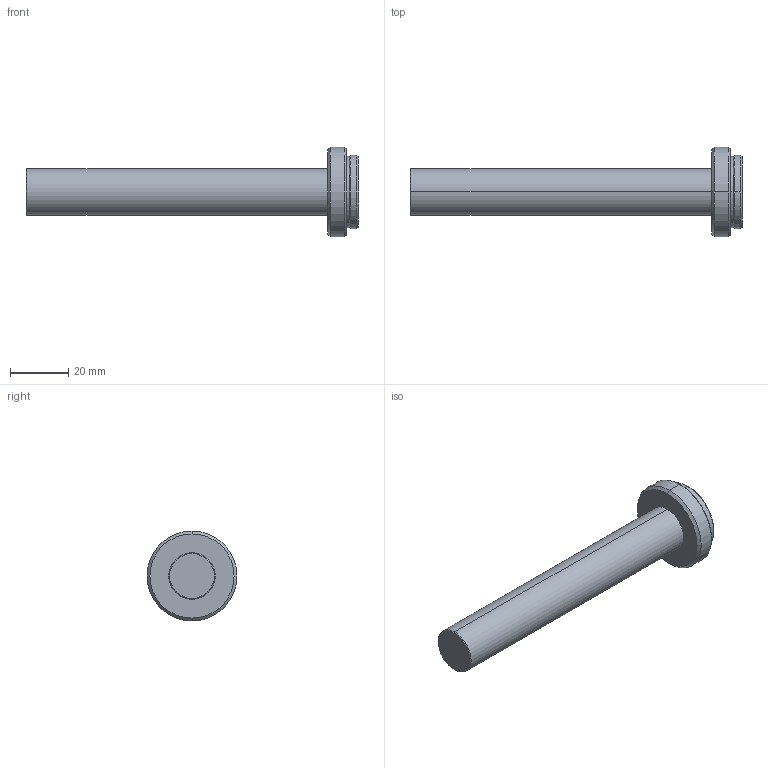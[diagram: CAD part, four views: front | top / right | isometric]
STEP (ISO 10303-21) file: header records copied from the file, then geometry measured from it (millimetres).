
FILE_DESCRIPTION (( 'STEP AP203' ), '1' );
FILE_NAME ('VS-TC10-65.STEP', '2020-02-13T01:03:43', ( '' ), ( '' ), 'SwSTEP 2.0', 'SolidWorks 2017', '' );
FILE_SCHEMA (( 'CONFIG_CONTROL_DESIGN' ));
Length unit declared in the file: millimetre
Products named in the file (1): VS-TC10-65
Bounding box: 114.4 x 31 x 31 mm (x, y, z)
Volume: 27709.4 mm3; surface area: 7601.1 mm2
Topology: 1 solids, 1 shells, 22 faces, 42 edges, 24 vertices
Faces by surface type: cone 10, cylinder 8, plane 4
Entity records: 631 total; most frequent: DIRECTION 112, CARTESIAN_POINT 89, ORIENTED_EDGE 84, AXIS2_PLACEMENT_3D 47, EDGE_CURVE 42, EDGE_LOOP 24, CIRCLE 24, VERTEX_POINT 24
